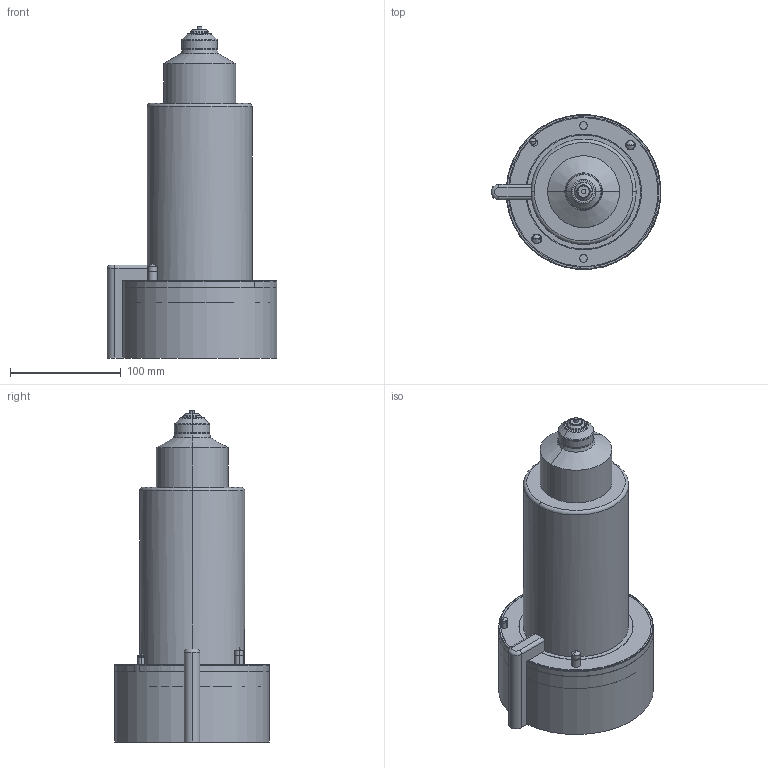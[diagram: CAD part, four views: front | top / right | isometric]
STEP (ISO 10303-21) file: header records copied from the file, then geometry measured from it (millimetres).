
FILE_DESCRIPTION (( 'STEP AP214' ), '1' );
FILE_NAME ('SB24B_OPEN_A250.STEP', '2009-07-28T15:24:36', ( 'Synventive Molding Solutions' ), ( 'Synventive Molding Solutions' ), 'SwSTEP 2.0', 'SolidWorks 2008', '' );
FILE_SCHEMA (( 'AUTOMOTIVE_DESIGN' ));
Length unit declared in the file: millimetre
Products named in the file (1): SB24B_OPEN_A250
Bounding box: 153.29 x 139.67 x 300 mm (x, y, z)
Volume: 3480988.2 mm3; surface area: 304159.2 mm2
Topology: 7 solids, 12 shells, 644 faces, 1565 edges, 970 vertices
Faces by surface type: cylinder 249, plane 224, torus 87, cone 74, sphere 6, bspline 4
Entity records: 27743 total; most frequent: CARTESIAN_POINT 5260, DIRECTION 3383, ORIENTED_EDGE 3094, EDGE_CURVE 1547, AXIS2_PLACEMENT_3D 1343, VERTEX_POINT 970, EDGE_LOOP 711, CIRCLE 702
